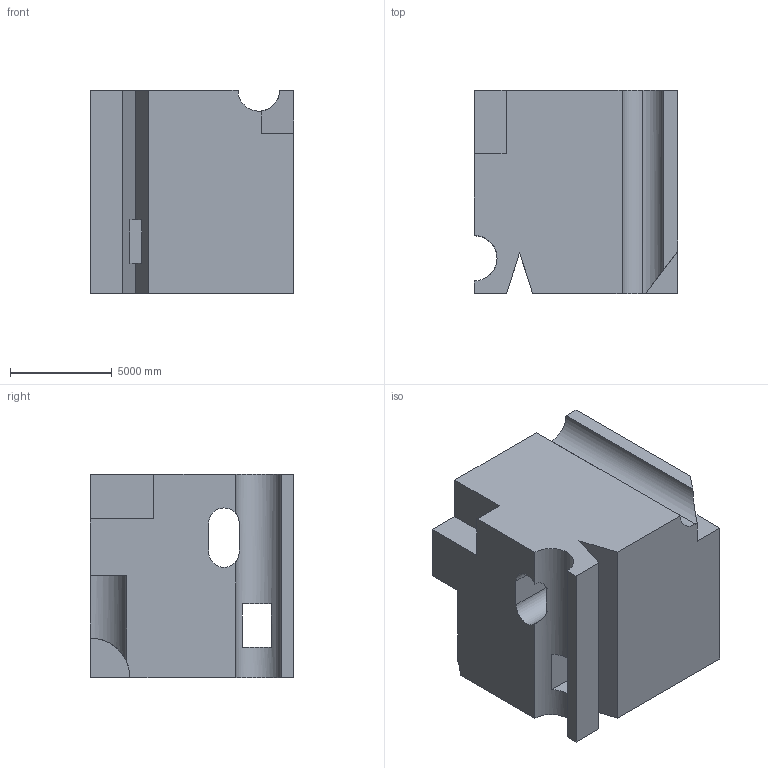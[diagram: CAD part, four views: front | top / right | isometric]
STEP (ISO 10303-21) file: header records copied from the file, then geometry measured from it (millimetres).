
FILE_DESCRIPTION (( 'STEP AP203' ), '1' );
FILE_NAME ('933.STEP', '2022-08-05T16:19:01', ( 'user' ), ( '' ), 'SwSTEP 2.0', 'SolidWorks 2021', '' );
FILE_SCHEMA (( 'CONFIG_CONTROL_DESIGN' ));
Length unit declared in the file: centimetre
Products named in the file (1): 933
Bounding box: 10000 x 10000 x 10000 mm (x, y, z)
Volume: 852882970336.1 mm3; surface area: 757294787.4 mm2
Topology: 1 solids, 1 shells, 37 faces, 114 edges, 76 vertices
Faces by surface type: plane 27, cylinder 10
Entity records: 1562 total; most frequent: CARTESIAN_POINT 441, ORIENTED_EDGE 228, DIRECTION 207, EDGE_CURVE 114, LINE 89, VECTOR 89, VERTEX_POINT 76, AXIS2_PLACEMENT_3D 59
